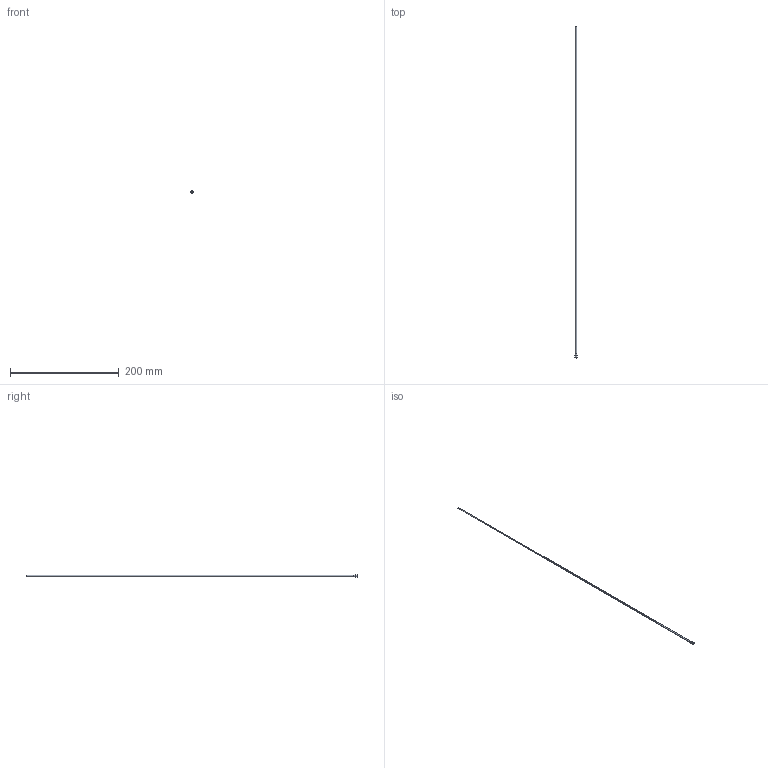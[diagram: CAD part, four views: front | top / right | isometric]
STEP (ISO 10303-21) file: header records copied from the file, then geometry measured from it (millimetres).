
FILE_DESCRIPTION(/* description */ (''),/* implementation_level */ '2;1');
FILE_NAME(/* name */ 'C:/Users/drich/Desktop/R093T-24 v1.step',/* time_stamp */ '2019-12-30T13:11:32-06:00',/* author */ (''),/* organization */ (''),/* preprocessor_version */ 'ST-DEVELOPER v18',/* originating_system */ 'Autodesk Translation Framework v8.12.0.6',/* authorisation */ '');
FILE_SCHEMA (('AUTOMOTIVE_DESIGN { 1 0 10303 214 3 1 1 }'));
Length unit declared in the file: inch
Products named in the file (1): R093T-24
Bounding box: 4.62 x 609.6 x 4.62 mm (x, y, z)
Volume: 761.2 mm3; surface area: 8154.7 mm2
Topology: 1 solids, 1 shells, 19 faces, 47 edges, 33 vertices
Faces by surface type: plane 11, cylinder 4, torus 3, cone 1
Full cylindrical faces by diameter (mm): 1.93 x1, 2.286 x1, 3.096 x1, 4.623 x1
Entity records: 624 total; most frequent: DIRECTION 111, CARTESIAN_POINT 100, ORIENTED_EDGE 94, EDGE_CURVE 47, AXIS2_PLACEMENT_3D 44, VERTEX_POINT 33, EDGE_LOOP 24, CIRCLE 24
